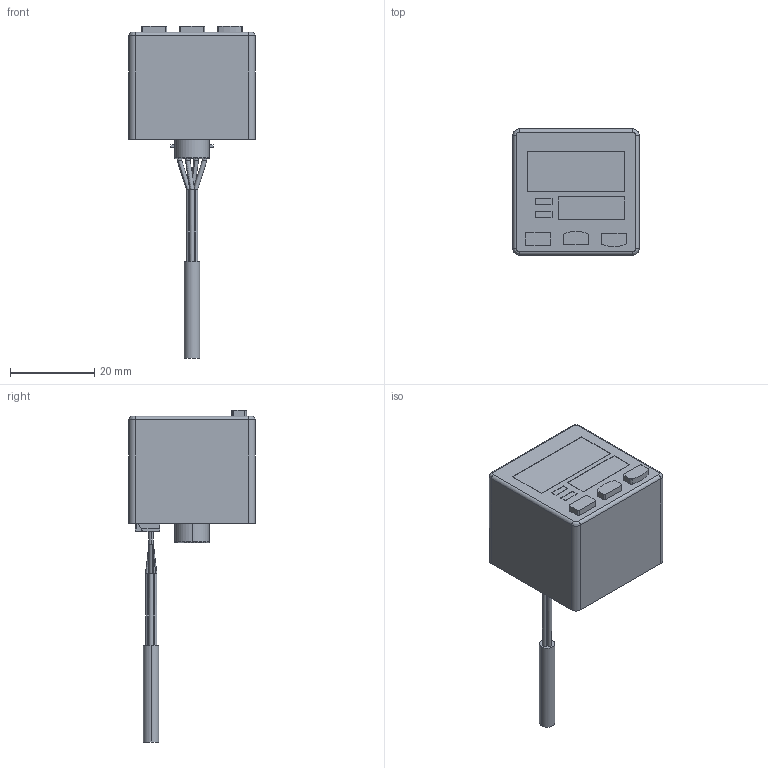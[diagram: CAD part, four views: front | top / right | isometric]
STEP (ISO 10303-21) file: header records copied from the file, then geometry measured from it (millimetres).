
FILE_DESCRIPTION (( 'STEP AP203' ), '1' );
FILE_NAME ('dp-101-m.STEP', '2014-11-04T01:05:02', ( '' ), ( '' ), 'SwSTEP 2.0', 'SolidWorks 2010', '' );
FILE_SCHEMA (( 'CONFIG_CONTROL_DESIGN' ));
Length unit declared in the file: millimetre
Products named in the file (3): dp-101-m; cn-14a-c1
Assembly tree (2 placements, depth 2):
  dp-101-m
    cn-14a-c1
    dp-101-m
Bounding box: 30 x 30 x 78.9 mm (x, y, z)
Volume: 23185.7 mm3; surface area: 6426.3 mm2
Topology: 2 solids, 2 shells, 225 faces, 584 edges, 384 vertices
Faces by surface type: plane 161, cylinder 48, bspline 14, cone 2
Entity records: 7935 total; most frequent: CARTESIAN_POINT 2144, ORIENTED_EDGE 1168, DIRECTION 1068, EDGE_CURVE 584, LINE 456, VECTOR 456, VERTEX_POINT 384, AXIS2_PLACEMENT_3D 306
